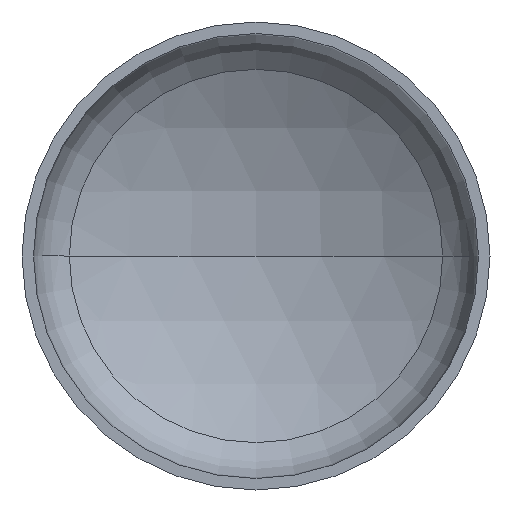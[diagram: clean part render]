
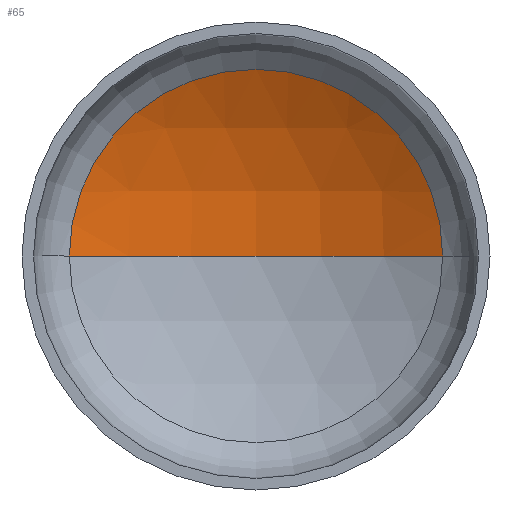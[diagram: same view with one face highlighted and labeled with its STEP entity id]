
A CAD part, front view. The second image highlights one B-rep face of the part: STEP entity #65.
In plain terms, the highlighted spherical face has radius 325 mm.
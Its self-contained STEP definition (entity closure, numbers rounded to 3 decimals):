
#4 = EDGE_LOOP ( 'NONE', ( #19, #14, #10 ) ) ;
#10 = ORIENTED_EDGE ( 'NONE', *, *, #149, .T. ) ;
#14 = ORIENTED_EDGE ( 'NONE', *, *, #150, .T. ) ;
#19 = ORIENTED_EDGE ( 'NONE', *, *, #153, .F. ) ;
#28 = VERTEX_POINT ( 'NONE', #275 ) ;
#40 = VERTEX_POINT ( 'NONE', #356 ) ;
#45 = VERTEX_POINT ( 'NONE', #243 ) ;
#57 = AXIS2_PLACEMENT_3D ( 'NONE', #215, #250, #248 ) ;
#61 = AXIS2_PLACEMENT_3D ( 'NONE', #185, #194, #201 ) ;
#65 = ADVANCED_FACE ( 'NONE', ( #211 ), #152, .F. ) ;
#69 = AXIS2_PLACEMENT_3D ( 'NONE', #175, #75, #266 ) ;
#75 = DIRECTION ( 'NONE',  ( 0., -1., 0. ) ) ;
#121 = AXIS2_PLACEMENT_3D ( 'NONE', #240, #241, #232 ) ;
#149 = EDGE_CURVE ( 'NONE', #45, #40, #187, .T. ) ;
#150 = EDGE_CURVE ( 'NONE', #28, #45, #314, .T. ) ;
#152 = SPHERICAL_SURFACE ( 'NONE', #121, 325. ) ;
#153 = EDGE_CURVE ( 'NONE', #28, #40, #374, .T. ) ;
#175 = CARTESIAN_POINT ( 'NONE',  ( 0., 83.734, 0. ) ) ;
#185 = CARTESIAN_POINT ( 'NONE',  ( 0., -197.938, 0. ) ) ;
#187 = CIRCLE ( 'NONE', #69, 162.129 ) ;
#194 = DIRECTION ( 'NONE',  ( 0., 0., -1. ) ) ;
#201 = DIRECTION ( 'NONE',  ( -1., 0., 0. ) ) ;
#211 = FACE_OUTER_BOUND ( 'NONE', #4, .T. ) ;
#215 = CARTESIAN_POINT ( 'NONE',  ( 0., -197.938, 0. ) ) ;
#232 = DIRECTION ( 'NONE',  ( -1., 0., 0. ) ) ;
#240 = CARTESIAN_POINT ( 'NONE',  ( 0., -197.938, 0. ) ) ;
#241 = DIRECTION ( 'NONE',  ( 0., 0., -1. ) ) ;
#243 = CARTESIAN_POINT ( 'NONE',  ( 162.129, 83.734, 0. ) ) ;
#248 = DIRECTION ( 'NONE',  ( 1., 0., 0. ) ) ;
#250 = DIRECTION ( 'NONE',  ( 0., 0., 1. ) ) ;
#266 = DIRECTION ( 'NONE',  ( 1., 0., 0. ) ) ;
#275 = CARTESIAN_POINT ( 'NONE',  ( 0., 127.062, 0. ) ) ;
#314 = CIRCLE ( 'NONE', #61, 325. ) ;
#356 = CARTESIAN_POINT ( 'NONE',  ( -162.129, 83.734, 0. ) ) ;
#374 = CIRCLE ( 'NONE', #57, 325. ) ;
